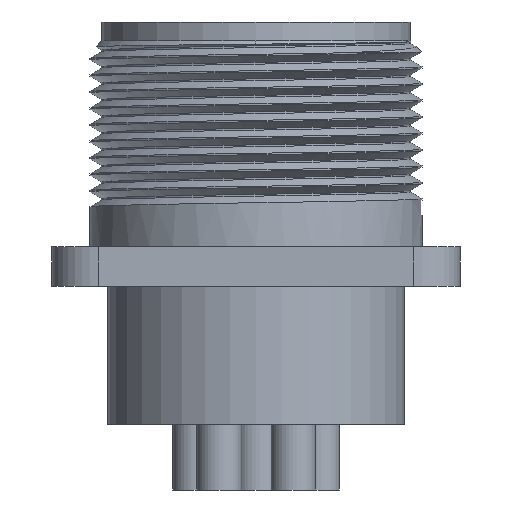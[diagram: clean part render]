
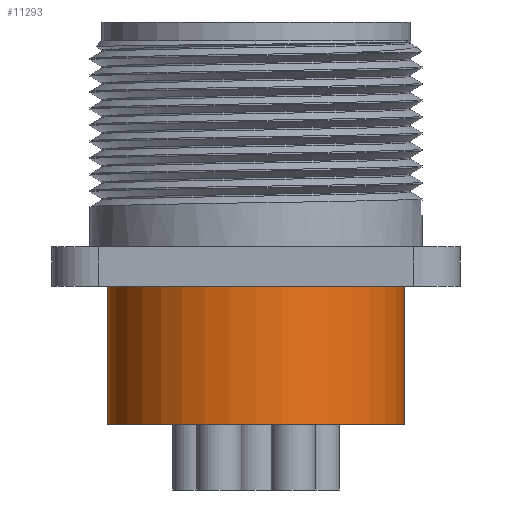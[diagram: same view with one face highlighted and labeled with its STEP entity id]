
A CAD part, front view. The second image highlights one B-rep face of the part: STEP entity #11293.
In plain terms, the highlighted cylindrical face has radius 12.7 mm (diameter 25.4 mm), a partial arc.
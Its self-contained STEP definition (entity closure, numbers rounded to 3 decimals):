
#672 = VERTEX_POINT ( 'NONE', #23416 ) ;
#780 = DIRECTION ( 'NONE',  ( 0., 0., 1. ) ) ;
#1035 = VERTEX_POINT ( 'NONE', #14754 ) ;
#2358 = VECTOR ( 'NONE', #15283, 1000. ) ;
#4001 = AXIS2_PLACEMENT_3D ( 'NONE', #19939, #4167, #15319 ) ;
#4167 = DIRECTION ( 'NONE',  ( 0., 0., 1. ) ) ;
#4741 = CARTESIAN_POINT ( 'NONE',  ( 0., 0., -22.59 ) ) ;
#6610 = CARTESIAN_POINT ( 'NONE',  ( -12.7, 0., -22.59 ) ) ;
#7045 = DIRECTION ( 'NONE',  ( 1., 0., 0. ) ) ;
#7621 = ORIENTED_EDGE ( 'NONE', *, *, #23042, .T. ) ;
#8423 = LINE ( 'NONE', #8528, #2358 ) ;
#8528 = CARTESIAN_POINT ( 'NONE',  ( -12.7, 0., -34.4 ) ) ;
#9326 = AXIS2_PLACEMENT_3D ( 'NONE', #4741, #20508, #7045 ) ;
#10571 = EDGE_CURVE ( 'NONE', #1035, #21739, #13739, .T. ) ;
#11293 = ADVANCED_FACE ( 'NONE', ( #23545 ), #22843, .T. ) ;
#11325 = EDGE_CURVE ( 'NONE', #672, #1035, #28044, .T. ) ;
#11373 = ORIENTED_EDGE ( 'NONE', *, *, #11325, .T. ) ;
#12410 = ORIENTED_EDGE ( 'NONE', *, *, #19167, .F. ) ;
#12547 = ORIENTED_EDGE ( 'NONE', *, *, #10571, .T. ) ;
#12576 = EDGE_LOOP ( 'NONE', ( #12410, #7621, #11373, #12547 ) ) ;
#13739 = CIRCLE ( 'NONE', #9326, 12.7 ) ;
#13870 = CIRCLE ( 'NONE', #27949, 12.7 ) ;
#13934 = DIRECTION ( 'NONE',  ( 0., 0., 1. ) ) ;
#14328 = CARTESIAN_POINT ( 'NONE',  ( 0., 0., -34.4 ) ) ;
#14754 = CARTESIAN_POINT ( 'NONE',  ( 12.7, 0., -22.59 ) ) ;
#15283 = DIRECTION ( 'NONE',  ( 0., 0., 1. ) ) ;
#15319 = DIRECTION ( 'NONE',  ( 1., 0., 0. ) ) ;
#16599 = DIRECTION ( 'NONE',  ( 1., 0., 0. ) ) ;
#17596 = VECTOR ( 'NONE', #13934, 1000. ) ;
#18892 = VERTEX_POINT ( 'NONE', #23336 ) ;
#19167 = EDGE_CURVE ( 'NONE', #18892, #21739, #8423, .T. ) ;
#19939 = CARTESIAN_POINT ( 'NONE',  ( 0., 0., -34.4 ) ) ;
#20508 = DIRECTION ( 'NONE',  ( 0., 0., -1. ) ) ;
#21739 = VERTEX_POINT ( 'NONE', #6610 ) ;
#22843 = CYLINDRICAL_SURFACE ( 'NONE', #4001, 12.7 ) ;
#23042 = EDGE_CURVE ( 'NONE', #18892, #672, #13870, .T. ) ;
#23336 = CARTESIAN_POINT ( 'NONE',  ( -12.7, 0., -34.4 ) ) ;
#23416 = CARTESIAN_POINT ( 'NONE',  ( 12.7, 0., -34.4 ) ) ;
#23545 = FACE_OUTER_BOUND ( 'NONE', #12576, .T. ) ;
#27332 = CARTESIAN_POINT ( 'NONE',  ( 12.7, 0., -34.4 ) ) ;
#27949 = AXIS2_PLACEMENT_3D ( 'NONE', #14328, #780, #16599 ) ;
#28044 = LINE ( 'NONE', #27332, #17596 ) ;
